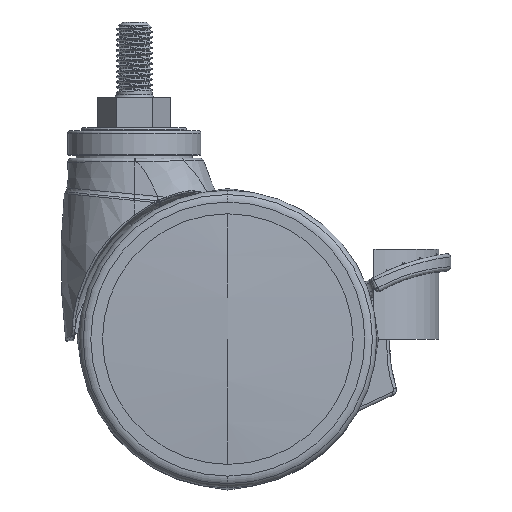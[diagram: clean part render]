
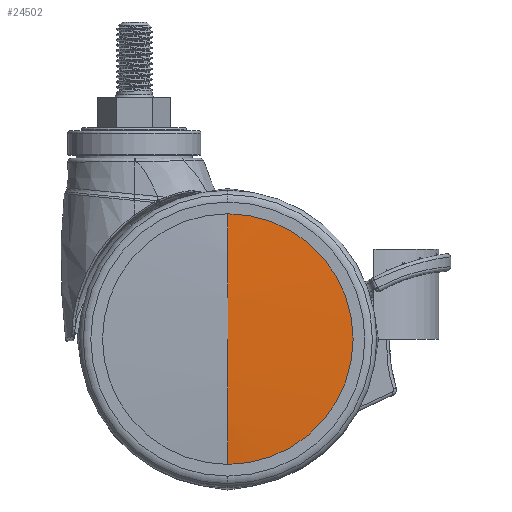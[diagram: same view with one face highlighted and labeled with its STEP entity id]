
A CAD part, top view. The second image highlights one B-rep face of the part: STEP entity #24502.
In plain terms, the highlighted spherical face has radius 560 mm.
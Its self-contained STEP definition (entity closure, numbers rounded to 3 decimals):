
#24331=CARTESIAN_POINT('',(-557.073,0.,0.));
#24332=DIRECTION('',(0.,0.,1.));
#24333=DIRECTION('',(1.,0.,0.));
#24334=AXIS2_PLACEMENT_3D('',#24331,#24332,#24333);
#24336=CARTESIAN_POINT('',(-557.073,0.,0.));
#24337=DIRECTION('',(0.,0.,-1.));
#24338=DIRECTION('',(1.,0.,0.));
#24339=AXIS2_PLACEMENT_3D('',#24336,#24337,#24338);
#24349=CARTESIAN_POINT('',(1.384,0.,0.));
#24350=DIRECTION('',(-1.,0.,0.));
#24351=DIRECTION('',(0.,1.,0.));
#24352=AXIS2_PLACEMENT_3D('',#24349,#24350,#24351);
#24449=CARTESIAN_POINT('',(2.927,0.,0.));
#24450=CARTESIAN_POINT('',(1.384,41.55,0.));
#24451=VERTEX_POINT('',#24449);
#24452=VERTEX_POINT('',#24450);
#24465=CARTESIAN_POINT('',(1.384,-41.55,
0.));
#24466=VERTEX_POINT('',#24465);
#24491=CARTESIAN_POINT('',(-557.073,0.,0.));
#24492=DIRECTION('',(1.,0.,0.));
#24493=DIRECTION('',(0.,-1.,0.));
#24494=AXIS2_PLACEMENT_3D('',#24491,#24492,#24493);
#24495=SPHERICAL_SURFACE('',#24494,560.);
#24496=ORIENTED_EDGE('',*,*,#24482,.T.);
#24498=ORIENTED_EDGE('',*,*,#24497,.T.);
#24499=ORIENTED_EDGE('',*,*,#24484,.F.);
#24500=EDGE_LOOP('',(#24496,#24498,#24499));
#24501=FACE_OUTER_BOUND('',#24500,.F.);
#24335=CIRCLE('',#24334,560.);
#24340=CIRCLE('',#24339,560.);
#24353=CIRCLE('',#24352,41.55);
#24482=EDGE_CURVE('',#24451,#24452,#24335,.T.);
#24484=EDGE_CURVE('',#24451,#24466,#24340,.T.);
#24497=EDGE_CURVE('',#24452,#24466,#24353,.T.);
#24502=ADVANCED_FACE('',(#24501),#24495,.T.);
